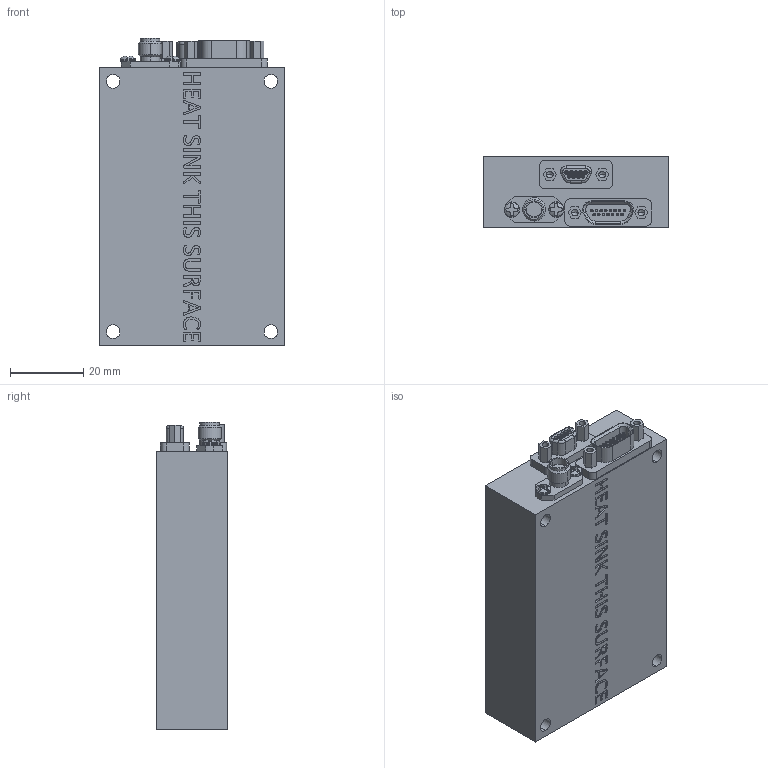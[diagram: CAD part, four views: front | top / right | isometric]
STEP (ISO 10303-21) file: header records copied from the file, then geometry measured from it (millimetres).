
FILE_DESCRIPTION (( 'STEP AP214' ), '1' );
FILE_NAME ('04ET.STEP', '2026-09-02T20:58:30', ( '' ), ( '' ), 'SwSTEP 2.0', 'SolidWorks 2026', '' );
FILE_SCHEMA (( 'AUTOMOTIVE_DESIGN' ));
Length unit declared in the file: inch
Products named in the file (1): 04ET
Bounding box: 50.8 x 19.56 x 84.14 mm (x, y, z)
Volume: 76913 mm3; surface area: 17678.4 mm2
Topology: 10 solids, 10 shells, 894 faces, 2212 edges, 1444 vertices
Faces by surface type: plane 364, cylinder 279, bspline 199, cone 27, torus 21, sphere 4
Entity records: 39051 total; most frequent: CARTESIAN_POINT 14302, ORIENTED_EDGE 4392, DIRECTION 3793, EDGE_CURVE 2196, VERTEX_POINT 1444, AXIS2_PLACEMENT_3D 1323, LINE 1147, VECTOR 1147
